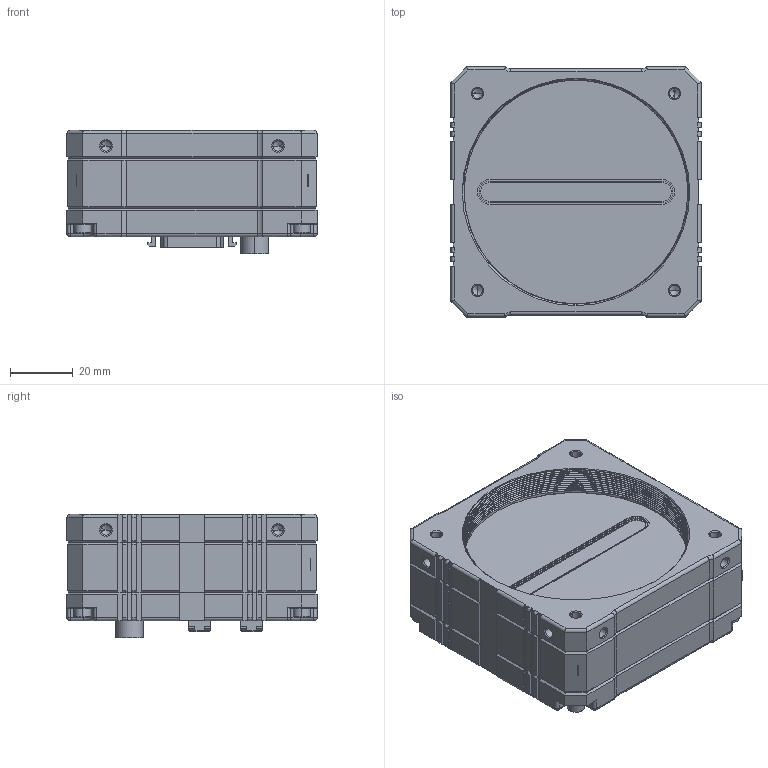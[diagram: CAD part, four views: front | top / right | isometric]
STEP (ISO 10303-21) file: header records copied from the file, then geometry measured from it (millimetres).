
FILE_DESCRIPTION((''),'2;1');
FILE_NAME('LV-M818C_M8116C_ASM_ASM','2021-04-23T',('Dongwoo'),(''),'CREO PARAMETRIC BY PTC INC, 2016130','CREO PARAMETRIC BY PTC INC, 2016130','');
FILE_SCHEMA(('CONFIG_CONTROL_DESIGN'));
Length unit declared in the file: inch
Products named in the file (15): LV-M818C_M8116C_BASE_8; LSC-2X8K-BASE-MODULE_ASM_3_ASM; LV-M818C_M8116C_BACK_8; MVU-00-09-00-00__5; HR10A_7R_6P__4; HR10A_7R_6P_NUT_1; 3M_10226_2210PE_2; SMD_NET_LED_1; LSC-2X8K-BACK-BOARD-MODULE_ASM__ASM; LSC-2X8K-BACK-MODULE_ASM_2_ASM; LV-M818C_M8116C_M72_MOUNT_8; LV-M828C_M8116C_CUSHION_5; BOLT_SH_M3_L25_SUS_2; LV-M818C_M8116C_ASM_24_ASM; LV-M818C_M8116C_ASM_ASM
Assembly tree (18 placements, depth 5):
  LV-M818C_M8116C_ASM_ASM
    LV-M818C_M8116C_ASM_24_ASM
      LSC-2X8K-BASE-MODULE_ASM_3_ASM
        LV-M818C_M8116C_BASE_8
      LSC-2X8K-BACK-MODULE_ASM_2_ASM
        LV-M818C_M8116C_BACK_8
        MVU-00-09-00-00__5
        HR10A_7R_6P__4
        HR10A_7R_6P_NUT_1
        LSC-2X8K-BACK-BOARD-MODULE_ASM__ASM
          3M_10226_2210PE_2  x2
          SMD_NET_LED_1
      LV-M818C_M8116C_M72_MOUNT_8
      LV-M828C_M8116C_CUSHION_5
      BOLT_SH_M3_L25_SUS_2  x4
Bounding box: 80 x 80 x 39.4 mm (x, y, z)
Volume: 223971.2 mm3; surface area: 80223.4 mm2
Topology: 14 solids, 44 shells, 2023 faces, 5328 edges, 3456 vertices
Faces by surface type: plane 1250, cylinder 611, cone 130, torus 12, bspline 12, sphere 8
Entity records: 55145 total; most frequent: CARTESIAN_POINT 13371, DIRECTION 8760, ORIENTED_EDGE 8500, EDGE_CURVE 4298, AXIS2_PLACEMENT_3D 2943, VECTOR 2874, LINE 2874, VERTEX_POINT 2802
